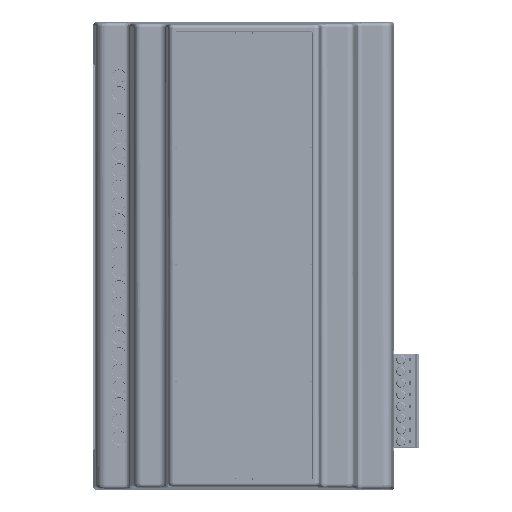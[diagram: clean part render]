
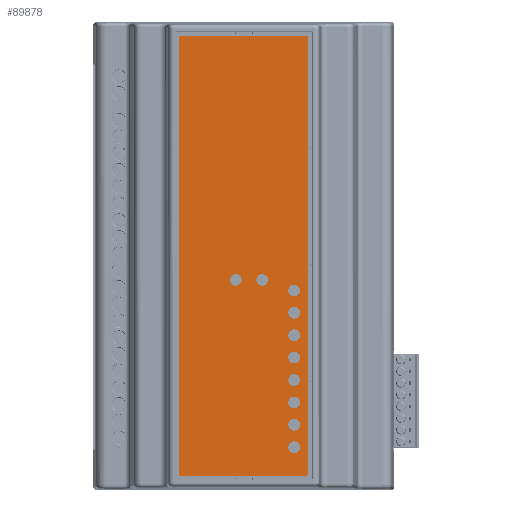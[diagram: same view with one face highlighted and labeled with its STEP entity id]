
A CAD part, top view. The second image highlights one B-rep face of the part: STEP entity #89878.
In plain terms, the highlighted planar face has unit normal (0, 0, 1).
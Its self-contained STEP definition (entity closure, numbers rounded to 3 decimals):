
#4657=CIRCLE('',#95970,0.5);
#4658=CIRCLE('',#95971,0.5);
#4659=CIRCLE('',#95972,0.5);
#4660=CIRCLE('',#95973,0.5);
#4661=CIRCLE('',#95974,1.75);
#4662=CIRCLE('',#95975,1.75);
#4663=CIRCLE('',#95976,1.75);
#4664=CIRCLE('',#95977,1.75);
#4665=CIRCLE('',#95978,1.75);
#4666=CIRCLE('',#95979,1.75);
#4667=CIRCLE('',#95980,1.75);
#4668=CIRCLE('',#95981,1.75);
#4669=CIRCLE('',#95982,1.75);
#4670=CIRCLE('',#95983,1.75);
#6532=FACE_BOUND('',#16236,.T.);
#6533=FACE_BOUND('',#16237,.T.);
#6534=FACE_BOUND('',#16238,.T.);
#6535=FACE_BOUND('',#16239,.T.);
#6536=FACE_BOUND('',#16240,.T.);
#6537=FACE_BOUND('',#16241,.T.);
#6538=FACE_BOUND('',#16242,.T.);
#6539=FACE_BOUND('',#16243,.T.);
#6540=FACE_BOUND('',#16244,.T.);
#6541=FACE_BOUND('',#16245,.T.);
#11309=FACE_OUTER_BOUND('',#16235,.T.);
#16235=EDGE_LOOP('',(#70064,#70065,#70066,#70067,#70068,#70069,#70070,#70071));
#16236=EDGE_LOOP('',(#70072));
#16237=EDGE_LOOP('',(#70073));
#16238=EDGE_LOOP('',(#70074));
#16239=EDGE_LOOP('',(#70075));
#16240=EDGE_LOOP('',(#70076));
#16241=EDGE_LOOP('',(#70077));
#16242=EDGE_LOOP('',(#70078));
#16243=EDGE_LOOP('',(#70079));
#16244=EDGE_LOOP('',(#70080));
#16245=EDGE_LOOP('',(#70081));
#23614=LINE('',#139187,#32949);
#23615=LINE('',#139191,#32950);
#23616=LINE('',#139195,#32951);
#23617=LINE('',#139198,#32952);
#32949=VECTOR('',#109083,10.);
#32950=VECTOR('',#109086,10.);
#32951=VECTOR('',#109089,10.);
#32952=VECTOR('',#109092,10.);
#42195=VERTEX_POINT('',#139183);
#42196=VERTEX_POINT('',#139184);
#42197=VERTEX_POINT('',#139186);
#42198=VERTEX_POINT('',#139188);
#42199=VERTEX_POINT('',#139190);
#42200=VERTEX_POINT('',#139192);
#42201=VERTEX_POINT('',#139194);
#42202=VERTEX_POINT('',#139196);
#42203=VERTEX_POINT('',#139199);
#42204=VERTEX_POINT('',#139201);
#42205=VERTEX_POINT('',#139203);
#42206=VERTEX_POINT('',#139205);
#42207=VERTEX_POINT('',#139207);
#42208=VERTEX_POINT('',#139209);
#42209=VERTEX_POINT('',#139211);
#42210=VERTEX_POINT('',#139213);
#42211=VERTEX_POINT('',#139215);
#42212=VERTEX_POINT('',#139217);
#52386=EDGE_CURVE('',#42195,#42196,#4657,.T.);
#52387=EDGE_CURVE('',#42195,#42197,#23614,.T.);
#52388=EDGE_CURVE('',#42198,#42197,#4658,.T.);
#52389=EDGE_CURVE('',#42198,#42199,#23615,.T.);
#52390=EDGE_CURVE('',#42200,#42199,#4659,.T.);
#52391=EDGE_CURVE('',#42200,#42201,#23616,.T.);
#52392=EDGE_CURVE('',#42202,#42201,#4660,.T.);
#52393=EDGE_CURVE('',#42202,#42196,#23617,.T.);
#52394=EDGE_CURVE('',#42203,#42203,#4661,.T.);
#52395=EDGE_CURVE('',#42204,#42204,#4662,.T.);
#52396=EDGE_CURVE('',#42205,#42205,#4663,.T.);
#52397=EDGE_CURVE('',#42206,#42206,#4664,.T.);
#52398=EDGE_CURVE('',#42207,#42207,#4665,.T.);
#52399=EDGE_CURVE('',#42208,#42208,#4666,.T.);
#52400=EDGE_CURVE('',#42209,#42209,#4667,.T.);
#52401=EDGE_CURVE('',#42210,#42210,#4668,.T.);
#52402=EDGE_CURVE('',#42211,#42211,#4669,.T.);
#52403=EDGE_CURVE('',#42212,#42212,#4670,.T.);
#70064=ORIENTED_EDGE('',*,*,#52386,.F.);
#70065=ORIENTED_EDGE('',*,*,#52387,.T.);
#70066=ORIENTED_EDGE('',*,*,#52388,.F.);
#70067=ORIENTED_EDGE('',*,*,#52389,.T.);
#70068=ORIENTED_EDGE('',*,*,#52390,.F.);
#70069=ORIENTED_EDGE('',*,*,#52391,.T.);
#70070=ORIENTED_EDGE('',*,*,#52392,.F.);
#70071=ORIENTED_EDGE('',*,*,#52393,.T.);
#70072=ORIENTED_EDGE('',*,*,#52394,.T.);
#70073=ORIENTED_EDGE('',*,*,#52395,.T.);
#70074=ORIENTED_EDGE('',*,*,#52396,.T.);
#70075=ORIENTED_EDGE('',*,*,#52397,.T.);
#70076=ORIENTED_EDGE('',*,*,#52398,.T.);
#70077=ORIENTED_EDGE('',*,*,#52399,.T.);
#70078=ORIENTED_EDGE('',*,*,#52400,.T.);
#70079=ORIENTED_EDGE('',*,*,#52401,.T.);
#70080=ORIENTED_EDGE('',*,*,#52402,.T.);
#70081=ORIENTED_EDGE('',*,*,#52403,.T.);
#85577=PLANE('',#95969);
#89878=ADVANCED_FACE('',(#11309,#6532,#6533,#6534,#6535,#6536,#6537,#6538,
#6539,#6540,#6541),#85577,.T.);
#95969=AXIS2_PLACEMENT_3D('',#139182,#109079,#109080);
#95970=AXIS2_PLACEMENT_3D('',#139185,#109081,#109082);
#95971=AXIS2_PLACEMENT_3D('',#139189,#109084,#109085);
#95972=AXIS2_PLACEMENT_3D('',#139193,#109087,#109088);
#95973=AXIS2_PLACEMENT_3D('',#139197,#109090,#109091);
#95974=AXIS2_PLACEMENT_3D('',#139200,#109093,#109094);
#95975=AXIS2_PLACEMENT_3D('',#139202,#109095,#109096);
#95976=AXIS2_PLACEMENT_3D('',#139204,#109097,#109098);
#95977=AXIS2_PLACEMENT_3D('',#139206,#109099,#109100);
#95978=AXIS2_PLACEMENT_3D('',#139208,#109101,#109102);
#95979=AXIS2_PLACEMENT_3D('',#139210,#109103,#109104);
#95980=AXIS2_PLACEMENT_3D('',#139212,#109105,#109106);
#95981=AXIS2_PLACEMENT_3D('',#139214,#109107,#109108);
#95982=AXIS2_PLACEMENT_3D('',#139216,#109109,#109110);
#95983=AXIS2_PLACEMENT_3D('',#139218,#109111,#109112);
#109079=DIRECTION('center_axis',(0.,0.,1.));
#109080=DIRECTION('ref_axis',(1.,0.,0.));
#109081=DIRECTION('center_axis',(0.,0.,-1.));
#109082=DIRECTION('ref_axis',(-0.707,-0.707,0.));
#109083=DIRECTION('',(1.,0.,0.));
#109084=DIRECTION('center_axis',(0.,0.,-1.));
#109085=DIRECTION('ref_axis',(0.707,-0.707,0.));
#109086=DIRECTION('',(0.,1.,0.));
#109087=DIRECTION('center_axis',(0.,0.,-1.));
#109088=DIRECTION('ref_axis',(0.707,0.707,0.));
#109089=DIRECTION('',(-1.,0.,0.));
#109090=DIRECTION('center_axis',(0.,0.,-1.));
#109091=DIRECTION('ref_axis',(-0.707,0.707,0.));
#109092=DIRECTION('',(0.,-1.,0.));
#109093=DIRECTION('center_axis',(0.,0.,-1.));
#109094=DIRECTION('ref_axis',(-1.,0.,0.));
#109095=DIRECTION('center_axis',(0.,0.,-1.));
#109096=DIRECTION('ref_axis',(-1.,0.,0.));
#109097=DIRECTION('center_axis',(0.,0.,-1.));
#109098=DIRECTION('ref_axis',(-1.,0.,0.));
#109099=DIRECTION('center_axis',(0.,0.,-1.));
#109100=DIRECTION('ref_axis',(-1.,0.,0.));
#109101=DIRECTION('center_axis',(0.,0.,-1.));
#109102=DIRECTION('ref_axis',(-1.,0.,0.));
#109103=DIRECTION('center_axis',(0.,0.,-1.));
#109104=DIRECTION('ref_axis',(-1.,0.,0.));
#109105=DIRECTION('center_axis',(0.,0.,-1.));
#109106=DIRECTION('ref_axis',(-1.,0.,0.));
#109107=DIRECTION('center_axis',(0.,0.,-1.));
#109108=DIRECTION('ref_axis',(-1.,0.,0.));
#109109=DIRECTION('center_axis',(0.,0.,-1.));
#109110=DIRECTION('ref_axis',(-1.,0.,0.));
#109111=DIRECTION('center_axis',(0.,0.,-1.));
#109112=DIRECTION('ref_axis',(-1.,0.,0.));
#139182=CARTESIAN_POINT('Origin',(0.,35.,0.4));
#139183=CARTESIAN_POINT('',(-18.783,-30.783,0.4));
#139184=CARTESIAN_POINT('',(-19.283,-30.283,0.4));
#139185=CARTESIAN_POINT('Origin',(-18.783,-30.283,0.4));
#139186=CARTESIAN_POINT('',(18.783,-30.783,0.4));
#139187=CARTESIAN_POINT('',(19.283,-30.783,0.4));
#139188=CARTESIAN_POINT('',(19.283,-30.283,0.4));
#139189=CARTESIAN_POINT('Origin',(18.783,-30.283,0.4));
#139190=CARTESIAN_POINT('',(19.283,100.283,0.4));
#139191=CARTESIAN_POINT('',(19.283,100.783,0.4));
#139192=CARTESIAN_POINT('',(18.783,100.783,0.4));
#139193=CARTESIAN_POINT('Origin',(18.783,100.283,0.4));
#139194=CARTESIAN_POINT('',(-18.783,100.783,0.4));
#139195=CARTESIAN_POINT('',(-19.283,100.783,0.4));
#139196=CARTESIAN_POINT('',(-19.283,100.283,0.4));
#139197=CARTESIAN_POINT('Origin',(-18.783,100.283,0.4));
#139198=CARTESIAN_POINT('',(-19.283,-30.783,0.4));
#139199=CARTESIAN_POINT('',(16.816,-22.291,0.4));
#139200=CARTESIAN_POINT('Origin',(15.067,-22.291,0.4));
#139201=CARTESIAN_POINT('',(16.816,-8.891,0.4));
#139202=CARTESIAN_POINT('Origin',(15.067,-8.891,0.4));
#139203=CARTESIAN_POINT('',(16.816,4.509,0.4));
#139204=CARTESIAN_POINT('Origin',(15.067,4.509,0.4));
#139205=CARTESIAN_POINT('',(16.816,17.909,0.4));
#139206=CARTESIAN_POINT('Origin',(15.067,17.909,0.4));
#139207=CARTESIAN_POINT('',(7.266,27.759,0.4));
#139208=CARTESIAN_POINT('Origin',(5.517,27.759,0.4));
#139209=CARTESIAN_POINT('',(-0.634,27.759,0.4));
#139210=CARTESIAN_POINT('Origin',(-2.383,27.759,0.4));
#139211=CARTESIAN_POINT('',(16.816,24.609,0.4));
#139212=CARTESIAN_POINT('Origin',(15.067,24.609,0.4));
#139213=CARTESIAN_POINT('',(16.816,11.209,0.4));
#139214=CARTESIAN_POINT('Origin',(15.067,11.209,0.4));
#139215=CARTESIAN_POINT('',(16.816,-2.191,0.4));
#139216=CARTESIAN_POINT('Origin',(15.067,-2.191,0.4));
#139217=CARTESIAN_POINT('',(16.816,-15.591,0.4));
#139218=CARTESIAN_POINT('Origin',(15.067,-15.591,0.4));
